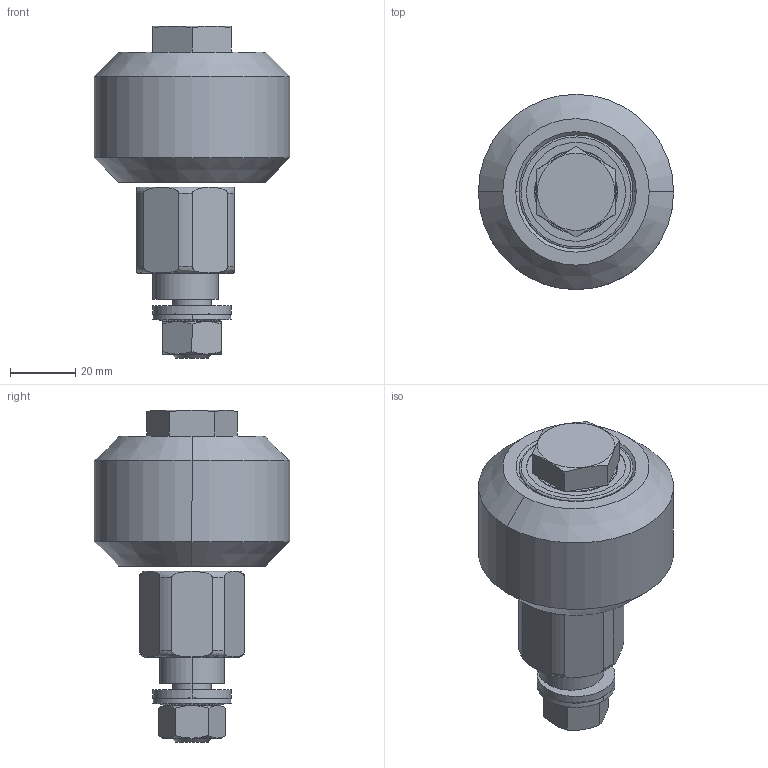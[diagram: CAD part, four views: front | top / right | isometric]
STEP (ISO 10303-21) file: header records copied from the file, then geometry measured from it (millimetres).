
FILE_DESCRIPTION (( 'STEP AP203' ), '1' );
FILE_NAME ('084.530.005.STEP', '2015-05-06T06:45:41', ( '' ), ( '' ), 'SwSTEP 2.0', 'SolidWorks 2012', '' );
FILE_SCHEMA (( 'CONFIG_CONTROL_DESIGN' ));
Length unit declared in the file: millimetre
Products named in the file (1): 084.530.005
Bounding box: 60 x 60 x 102 mm (x, y, z)
Surface area: 21561 mm2 (no closed solid volume)
Topology: 0 solids, 11 shells, 106 faces, 485 edges, 388 vertices
Faces by surface type: plane 40, cone 34, cylinder 24, bspline 8
Entity records: 5953 total; most frequent: CARTESIAN_POINT 2262, DIRECTION 719, ORIENTED_EDGE 690, EDGE_CURVE 485, VERTEX_POINT 388, AXIS2_PLACEMENT_3D 316, CIRCLE 217, B_SPLINE_CURVE_WITH_KNOTS 169
